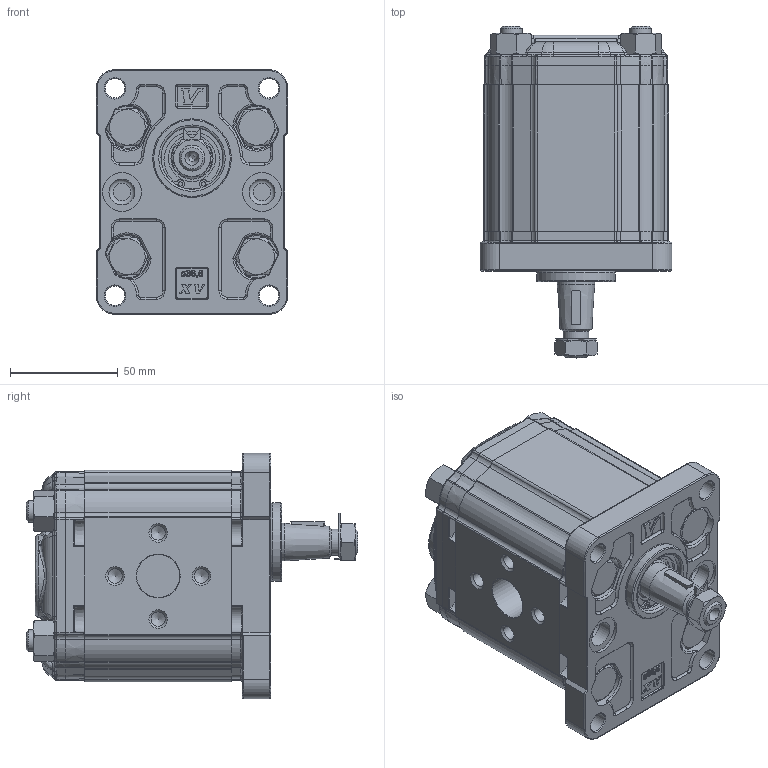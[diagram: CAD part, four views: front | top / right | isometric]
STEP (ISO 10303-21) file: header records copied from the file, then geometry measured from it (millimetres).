
FILE_DESCRIPTION(/* description */ ('Unknown'),/* implementation_level */ '2;1');
FILE_NAME(/* name */ 'X2P5102EPPA',/* time_stamp */ '2021-07-16T12:56:16+02:00',/* author */ ('Unknown'),/* organization */ ('Unknown'),/* preprocessor_version */ 'ST-DEVELOPER v16.7',/* originating_system */ 'Solid Edge',/* authorisation */ 'Unknown');
FILE_SCHEMA (('AUTOMOTIVE_DESIGN {1 0 10303 214 3 1 1}'));
Products named in the file (5): X2P5102EPPA; X2P02; 2E; X2PPH68; XP201-A
Assembly tree (4 placements, depth 2):
  X2P5102EPPA
    X2P02
    2E
    X2PPH68
    XP201-A
Bounding box: 89 x 153.95 x 113.7 mm (x, y, z)
Volume: 790430 mm3; surface area: 120923.9 mm2
Topology: 4 solids, 5 shells, 2078 faces, 5122 edges, 3121 vertices
Faces by surface type: cylinder 617, plane 543, bspline 492, torus 247, cone 163, sphere 16
Full cylindrical faces by diameter (mm): 2 x2, 6.647 x8, 9 x4, 10 x8, 10.5 x4, 11.5 x4, 12 x4, 12.5 x1, 16 x4, 17.42 x1, 17.48 x2, 18 x2, 18.724 x1, 20 x2, 20.595 x1, 21.741 x1, 25.834 x1, 28.56 x1, 28.57 x1, 28.8 x1, 30.5 x1, 36.5 x1
Entity records: 87508 total; most frequent: CARTESIAN_POINT 28385, ORIENTED_EDGE 9770, DIRECTION 8218, EDGE_CURVE 4885, AXIS2_PLACEMENT_3D 3171, VERTEX_POINT 3058, FACE_BOUND 2349, EDGE_LOOP 2339
